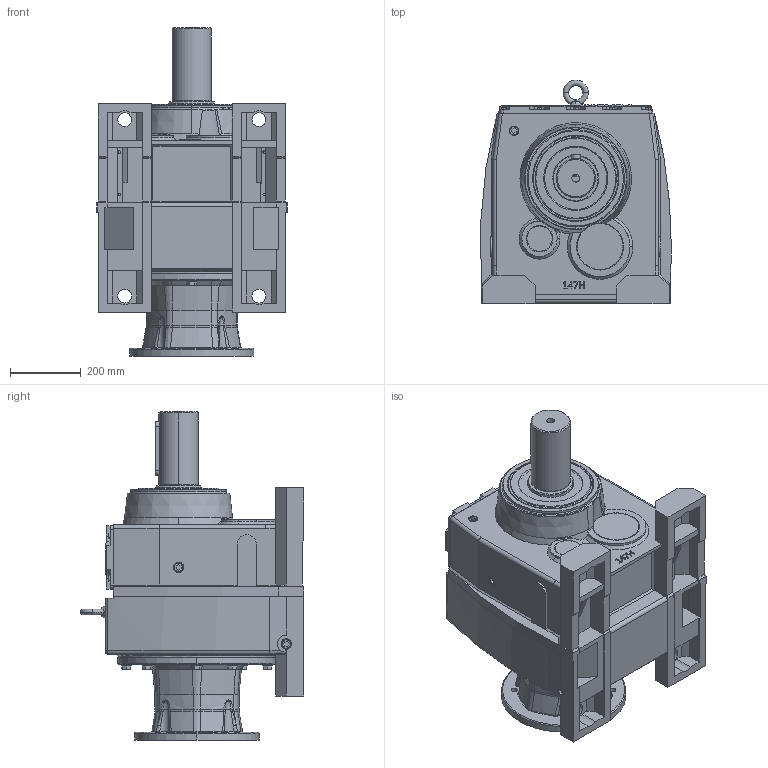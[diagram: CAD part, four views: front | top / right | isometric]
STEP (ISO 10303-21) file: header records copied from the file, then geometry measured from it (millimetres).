
FILE_DESCRIPTION (( 'STEP AP203' ), '1' );
FILE_NAME ('WINL147-405TC.STEP', '2013-09-26T10:33:10', ( 'User' ), ( 'Chenta' ), 'SwSTEP 2.0', 'SolidWorks 2011', '' );
FILE_SCHEMA (( 'CONFIG_CONTROL_DESIGN' ));
Length unit declared in the file: millimetre
Products named in the file (1): WINL147-405TC
Bounding box: 540.11 x 634 x 930 mm (x, y, z)
Surface area: 2557527.1 mm2 (no closed solid volume)
Topology: 0 solids, 58 shells, 1111 faces, 3301 edges, 2223 vertices
Faces by surface type: plane 563, cylinder 217, cone 166, bspline 107, torus 56, sphere 2
Entity records: 44108 total; most frequent: CARTESIAN_POINT 15338, ORIENTED_EDGE 5790, DIRECTION 5666, EDGE_CURVE 3297, VERTEX_POINT 2223, AXIS2_PLACEMENT_3D 1908, LINE 1850, VECTOR 1850
